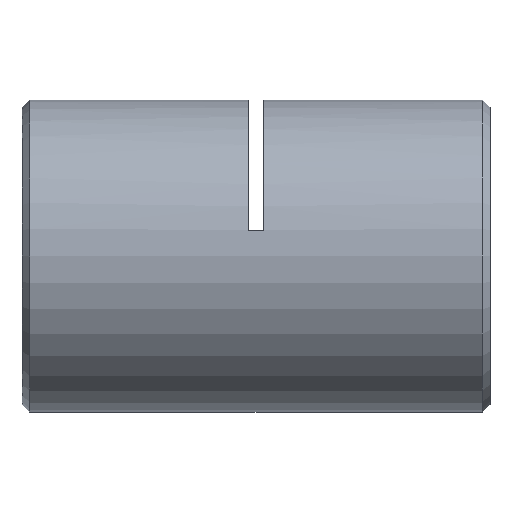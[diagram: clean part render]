
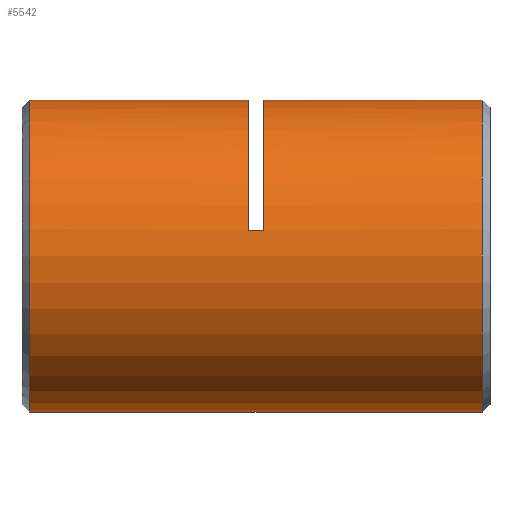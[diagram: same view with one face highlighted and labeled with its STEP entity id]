
A CAD part, left-side view. The second image highlights one B-rep face of the part: STEP entity #5542.
In plain terms, the highlighted cylindrical face has radius 10 mm (diameter 20 mm), a partial arc.
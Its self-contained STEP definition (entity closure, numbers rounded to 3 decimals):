
#17 = CARTESIAN_POINT ( 'NONE',  ( -9.86, 15.25, 1.667 ) ) ;
#109 = CARTESIAN_POINT ( 'NONE',  ( 0., 0.75, 0. ) ) ;
#495 = EDGE_CURVE ( 'NONE', #1640, #5417, #4132, .T. ) ;
#537 = VECTOR ( 'NONE', #4966, 1000. ) ;
#724 = CARTESIAN_POINT ( 'NONE',  ( 0., 14.75, 0. ) ) ;
#766 = VERTEX_POINT ( 'NONE', #5791 ) ;
#815 = ORIENTED_EDGE ( 'NONE', *, *, #1545, .T. ) ;
#852 = EDGE_CURVE ( 'NONE', #4451, #5105, #2324, .T. ) ;
#875 = DIRECTION ( 'NONE',  ( 0., 1., 0. ) ) ;
#898 = CARTESIAN_POINT ( 'NONE',  ( 0., 0., 0. ) ) ;
#1219 = AXIS2_PLACEMENT_3D ( 'NONE', #898, #5003, #3247 ) ;
#1376 = DIRECTION ( 'NONE',  ( 0., -1., 0. ) ) ;
#1436 = VECTOR ( 'NONE', #2946, 1000. ) ;
#1545 = EDGE_CURVE ( 'NONE', #5105, #5834, #4456, .T. ) ;
#1584 = DIRECTION ( 'NONE',  ( 0., 1., 0. ) ) ;
#1640 = VERTEX_POINT ( 'NONE', #4313 ) ;
#1667 = CARTESIAN_POINT ( 'NONE',  ( 0., 15.75, 10. ) ) ;
#1756 = AXIS2_PLACEMENT_3D ( 'NONE', #3147, #1376, #4931 ) ;
#1809 = CARTESIAN_POINT ( 'NONE',  ( 0., 15.75, 0. ) ) ;
#1998 = CIRCLE ( 'NONE', #4744, 10. ) ;
#2016 = CARTESIAN_POINT ( 'NONE',  ( 0., 29.75, -10. ) ) ;
#2145 = LINE ( 'NONE', #5089, #1436 ) ;
#2217 = CARTESIAN_POINT ( 'NONE',  ( 0., 29.75, 10. ) ) ;
#2268 = CYLINDRICAL_SURFACE ( 'NONE', #1219, 10. ) ;
#2295 = CARTESIAN_POINT ( 'NONE',  ( 0., 0.75, 10. ) ) ;
#2324 = LINE ( 'NONE', #3624, #2906 ) ;
#2408 = EDGE_CURVE ( 'NONE', #5417, #766, #3915, .T. ) ;
#2411 = ORIENTED_EDGE ( 'NONE', *, *, #3271, .T. ) ;
#2438 = ORIENTED_EDGE ( 'NONE', *, *, #3358, .F. ) ;
#2488 = VECTOR ( 'NONE', #2504, 1000. ) ;
#2504 = DIRECTION ( 'NONE',  ( 0., 1., 0. ) ) ;
#2532 = VERTEX_POINT ( 'NONE', #4769 ) ;
#2756 = ORIENTED_EDGE ( 'NONE', *, *, #2408, .T. ) ;
#2906 = VECTOR ( 'NONE', #4397, 1000. ) ;
#2946 = DIRECTION ( 'NONE',  ( 0., 1., 0. ) ) ;
#3007 = EDGE_CURVE ( 'NONE', #2532, #766, #1998, .T. ) ;
#3009 = AXIS2_PLACEMENT_3D ( 'NONE', #1809, #875, #4027 ) ;
#3147 = CARTESIAN_POINT ( 'NONE',  ( 0., 29.75, 0. ) ) ;
#3247 = DIRECTION ( 'NONE',  ( 0., 0., 1. ) ) ;
#3271 = EDGE_CURVE ( 'NONE', #5698, #4451, #3984, .T. ) ;
#3358 = EDGE_CURVE ( 'NONE', #1640, #5834, #2145, .T. ) ;
#3451 = DIRECTION ( 'NONE',  ( 0., 0., 1. ) ) ;
#3624 = CARTESIAN_POINT ( 'NONE',  ( 0., 0., 10. ) ) ;
#3677 = ORIENTED_EDGE ( 'NONE', *, *, #852, .T. ) ;
#3731 = DIRECTION ( 'NONE',  ( 0., 1., 0. ) ) ;
#3788 = AXIS2_PLACEMENT_3D ( 'NONE', #109, #3731, #5097 ) ;
#3915 = LINE ( 'NONE', #5485, #537 ) ;
#3984 = CIRCLE ( 'NONE', #3009, 10. ) ;
#3993 = ORIENTED_EDGE ( 'NONE', *, *, #5388, .T. ) ;
#4027 = DIRECTION ( 'NONE',  ( 0., 0., 1. ) ) ;
#4132 = CIRCLE ( 'NONE', #3788, 10. ) ;
#4239 = ORIENTED_EDGE ( 'NONE', *, *, #3007, .F. ) ;
#4313 = CARTESIAN_POINT ( 'NONE',  ( 0., 0.75, -10. ) ) ;
#4397 = DIRECTION ( 'NONE',  ( 0., 1., 0. ) ) ;
#4451 = VERTEX_POINT ( 'NONE', #1667 ) ;
#4456 = CIRCLE ( 'NONE', #1756, 10. ) ;
#4744 = AXIS2_PLACEMENT_3D ( 'NONE', #724, #1584, #3451 ) ;
#4769 = CARTESIAN_POINT ( 'NONE',  ( -9.86, 14.75, 1.667 ) ) ;
#4844 = LINE ( 'NONE', #17, #2488 ) ;
#4919 = FACE_OUTER_BOUND ( 'NONE', #5744, .T. ) ;
#4928 = ORIENTED_EDGE ( 'NONE', *, *, #495, .T. ) ;
#4931 = DIRECTION ( 'NONE',  ( 0., 0., -1. ) ) ;
#4966 = DIRECTION ( 'NONE',  ( 0., 1., 0. ) ) ;
#5003 = DIRECTION ( 'NONE',  ( 0., 1., 0. ) ) ;
#5089 = CARTESIAN_POINT ( 'NONE',  ( 0., 0., -10. ) ) ;
#5097 = DIRECTION ( 'NONE',  ( 0., 0., 1. ) ) ;
#5105 = VERTEX_POINT ( 'NONE', #2217 ) ;
#5388 = EDGE_CURVE ( 'NONE', #2532, #5698, #4844, .T. ) ;
#5417 = VERTEX_POINT ( 'NONE', #2295 ) ;
#5485 = CARTESIAN_POINT ( 'NONE',  ( 0., 0., 10. ) ) ;
#5498 = CARTESIAN_POINT ( 'NONE',  ( -9.86, 15.75, 1.667 ) ) ;
#5542 = ADVANCED_FACE ( 'NONE', ( #4919 ), #2268, .T. ) ;
#5698 = VERTEX_POINT ( 'NONE', #5498 ) ;
#5744 = EDGE_LOOP ( 'NONE', ( #2438, #4928, #2756, #4239, #3993, #2411, #3677, #815 ) ) ;
#5791 = CARTESIAN_POINT ( 'NONE',  ( 0., 14.75, 10. ) ) ;
#5834 = VERTEX_POINT ( 'NONE', #2016 ) ;
